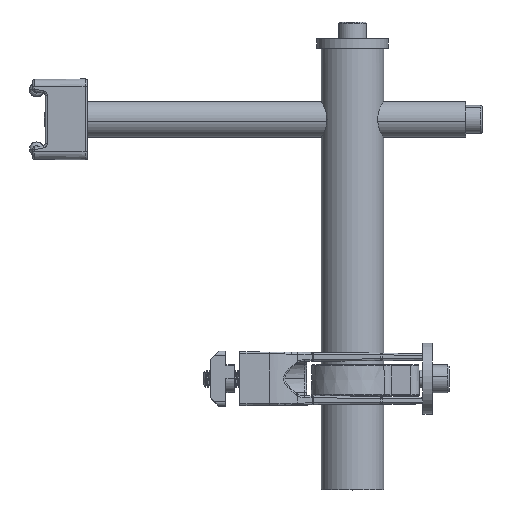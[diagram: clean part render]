
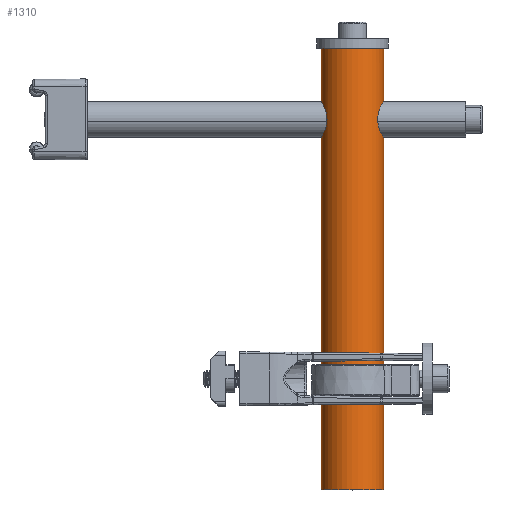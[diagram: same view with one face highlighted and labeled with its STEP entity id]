
A CAD part, top view. The second image highlights one B-rep face of the part: STEP entity #1310.
In plain terms, the highlighted cylindrical face has radius 11.113 mm (diameter 22.225 mm), a partial arc.
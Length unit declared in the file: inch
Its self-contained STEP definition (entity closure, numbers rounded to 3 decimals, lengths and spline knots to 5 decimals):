
#970=DIRECTION('',(0.,1.,0.));
#971=VECTOR('',#970,0.745);
#972=CARTESIAN_POINT('',(0.,5.45,-0.4375));
#973=LINE('',#972,#971);
#974=DIRECTION('',(0.,1.,0.));
#975=VECTOR('',#974,4.94);
#976=CARTESIAN_POINT('',(0.,0.,-0.4375));
#977=LINE('',#976,#975);
#983=CARTESIAN_POINT('',(0.,6.195,0.));
#984=DIRECTION('',(0.,1.,0.));
#985=DIRECTION('',(0.,0.,1.));
#986=AXIS2_PLACEMENT_3D('',#983,#984,#985);
#998=DIRECTION('',(0.,1.,0.));
#999=VECTOR('',#998,0.745);
#1000=CARTESIAN_POINT('',(0.,5.45,0.4375));
#1001=LINE('',#1000,#999);
#1002=DIRECTION('',(0.,1.,0.));
#1003=VECTOR('',#1002,4.94);
#1004=CARTESIAN_POINT('',(0.,0.,0.4375));
#1005=LINE('',#1004,#1003);
#1021=CARTESIAN_POINT('',(0.255,5.195,0.3555));
#1022=CARTESIAN_POINT('',(0.255,5.21201,0.3555));
#1023=CARTESIAN_POINT('',(0.25167,5.24721,
0.35795));
#1024=CARTESIAN_POINT('',(0.23375,5.30233,
0.37017));
#1025=CARTESIAN_POINT('',(0.20357,5.3523,
0.38798));
#1026=CARTESIAN_POINT('',(0.16166,5.39521,
0.40756));
#1027=CARTESIAN_POINT('',(0.11105,5.42716,
0.42442));
#1028=CARTESIAN_POINT('',(0.0544,5.44635,
0.43535));
#1029=CARTESIAN_POINT('',(0.01778,5.45,0.4375));
#1030=CARTESIAN_POINT('',(0.,5.45,0.4375));
#1032=CARTESIAN_POINT('',(0.,4.94,0.4375));
#1033=CARTESIAN_POINT('',(0.01749,4.94,0.4375));
#1034=CARTESIAN_POINT('',(0.05358,4.94354,
0.43542));
#1035=CARTESIAN_POINT('',(0.1095,4.96216,
0.42481));
#1036=CARTESIAN_POINT('',(0.16013,4.99357,
0.40818));
#1037=CARTESIAN_POINT('',(0.20244,5.03617,
0.38859));
#1038=CARTESIAN_POINT('',(0.23341,5.08678,
0.37041));
#1039=CARTESIAN_POINT('',(0.25161,5.14233,
0.35799));
#1040=CARTESIAN_POINT('',(0.255,5.17785,0.3555));
#1041=CARTESIAN_POINT('',(0.255,5.195,0.3555));
#1053=CARTESIAN_POINT('',(0.,4.94,0.4375));
#1176=CARTESIAN_POINT('',(0.,0.,0.));
#1177=DIRECTION('',(0.,-1.,0.));
#1178=DIRECTION('',(0.,0.,-1.));
#1179=AXIS2_PLACEMENT_3D('',#1176,#1177,#1178);
#1195=CARTESIAN_POINT('',(0.,4.94,-0.4375));
#1206=CARTESIAN_POINT('',(0.255,5.195,-0.3555));
#1207=CARTESIAN_POINT('',(0.255,5.17799,-0.3555));
#1208=CARTESIAN_POINT('',(0.25167,5.14279,
-0.35795));
#1209=CARTESIAN_POINT('',(0.23375,5.08767,
-0.37017));
#1210=CARTESIAN_POINT('',(0.20357,5.0377,
-0.38798));
#1211=CARTESIAN_POINT('',(0.16166,4.99479,
-0.40756));
#1212=CARTESIAN_POINT('',(0.11105,4.96284,
-0.42442));
#1213=CARTESIAN_POINT('',(0.0544,4.94365,
-0.43535));
#1214=CARTESIAN_POINT('',(0.01778,4.94,-0.4375));
#1215=CARTESIAN_POINT('',(0.,4.94,-0.4375));
#1221=CARTESIAN_POINT('',(0.,5.45,-0.4375));
#1222=CARTESIAN_POINT('',(0.01749,5.45,-0.4375));
#1223=CARTESIAN_POINT('',(0.05358,5.44646,
-0.43542));
#1224=CARTESIAN_POINT('',(0.1095,5.42784,
-0.42481));
#1225=CARTESIAN_POINT('',(0.16013,5.39643,
-0.40818));
#1226=CARTESIAN_POINT('',(0.20244,5.35383,
-0.38859));
#1227=CARTESIAN_POINT('',(0.23341,5.30322,
-0.37041));
#1228=CARTESIAN_POINT('',(0.25161,5.24767,
-0.35799));
#1229=CARTESIAN_POINT('',(0.255,5.21215,-0.3555));
#1230=CARTESIAN_POINT('',(0.255,5.195,-0.3555));
#1249=CARTESIAN_POINT('',(0.255,5.195,0.3555));
#1251=VERTEX_POINT('',#1249);
#1261=CARTESIAN_POINT('',(0.,0.,0.4375));
#1262=CARTESIAN_POINT('',(0.,0.,-0.4375));
#1263=VERTEX_POINT('',#1261);
#1264=VERTEX_POINT('',#1262);
#1265=VERTEX_POINT('',#1030);
#1267=VERTEX_POINT('',#1053);
#1268=CARTESIAN_POINT('',(0.,5.45,-0.4375));
#1269=CARTESIAN_POINT('',(0.,6.195,-0.4375));
#1270=VERTEX_POINT('',#1268);
#1271=VERTEX_POINT('',#1269);
#1276=CARTESIAN_POINT('',(0.255,5.195,-0.3555));
#1277=VERTEX_POINT('',#1276);
#1278=VERTEX_POINT('',#1195);
#1280=CARTESIAN_POINT('',(0.,6.195,0.4375));
#1281=VERTEX_POINT('',#1280);
#1283=CARTESIAN_POINT('',(0.,6.195,0.));
#1284=DIRECTION('',(0.,-1.,0.));
#1285=DIRECTION('',(0.,0.,-1.));
#1286=AXIS2_PLACEMENT_3D('',#1283,#1284,#1285);
#1287=CYLINDRICAL_SURFACE('',#1286,0.4375);
#1289=ORIENTED_EDGE('',*,*,#1288,.T.);
#1291=ORIENTED_EDGE('',*,*,#1290,.F.);
#1293=ORIENTED_EDGE('',*,*,#1292,.T.);
#1295=ORIENTED_EDGE('',*,*,#1294,.T.);
#1297=ORIENTED_EDGE('',*,*,#1296,.F.);
#1299=ORIENTED_EDGE('',*,*,#1298,.T.);
#1301=ORIENTED_EDGE('',*,*,#1300,.T.);
#1303=ORIENTED_EDGE('',*,*,#1302,.T.);
#1305=ORIENTED_EDGE('',*,*,#1304,.T.);
#1307=ORIENTED_EDGE('',*,*,#1306,.T.);
#1308=EDGE_LOOP('',(#1289,#1291,#1293,#1295,#1297,#1299,#1301,#1303,#1305,
#1307));
#1309=FACE_OUTER_BOUND('',#1308,.F.);
#987=CIRCLE('',#986,0.4375);
#1031=B_SPLINE_CURVE_WITH_KNOTS('',3,(#1021,#1022,#1023,#1024,#1025,#1026,#1027,
#1028,#1029,#1030),.UNSPECIFIED.,.F.,.F.,(4,1,1,1,1,1,1,4),(0.,
0.14286,0.28571,0.42857,0.57143,
0.71429,0.85714,1.),.UNSPECIFIED.);
#1042=B_SPLINE_CURVE_WITH_KNOTS('',3,(#1032,#1033,#1034,#1035,#1036,#1037,#1038,
#1039,#1040,#1041),.UNSPECIFIED.,.F.,.F.,(4,1,1,1,1,1,1,4),(0.,
0.14286,0.28571,0.42857,0.57143,
0.71429,0.85714,1.),.UNSPECIFIED.);
#1180=CIRCLE('',#1179,0.4375);
#1216=B_SPLINE_CURVE_WITH_KNOTS('',3,(#1206,#1207,#1208,#1209,#1210,#1211,#1212,
#1213,#1214,#1215),.UNSPECIFIED.,.F.,.F.,(4,1,1,1,1,1,1,4),(0.,
0.14286,0.28571,0.42857,0.57143,
0.71429,0.85714,1.),.UNSPECIFIED.);
#1231=B_SPLINE_CURVE_WITH_KNOTS('',3,(#1221,#1222,#1223,#1224,#1225,#1226,#1227,
#1228,#1229,#1230),.UNSPECIFIED.,.F.,.F.,(4,1,1,1,1,1,1,4),(0.,
0.14286,0.28571,0.42857,0.57143,
0.71429,0.85714,1.),.UNSPECIFIED.);
#1288=EDGE_CURVE('',#1281,#1271,#987,.T.);
#1290=EDGE_CURVE('',#1270,#1271,#973,.T.);
#1292=EDGE_CURVE('',#1270,#1277,#1231,.T.);
#1294=EDGE_CURVE('',#1277,#1278,#1216,.T.);
#1296=EDGE_CURVE('',#1264,#1278,#977,.T.);
#1298=EDGE_CURVE('',#1264,#1263,#1180,.T.);
#1300=EDGE_CURVE('',#1263,#1267,#1005,.T.);
#1302=EDGE_CURVE('',#1267,#1251,#1042,.T.);
#1304=EDGE_CURVE('',#1251,#1265,#1031,.T.);
#1306=EDGE_CURVE('',#1265,#1281,#1001,.T.);
#1310=ADVANCED_FACE('',(#1309),#1287,.T.);
